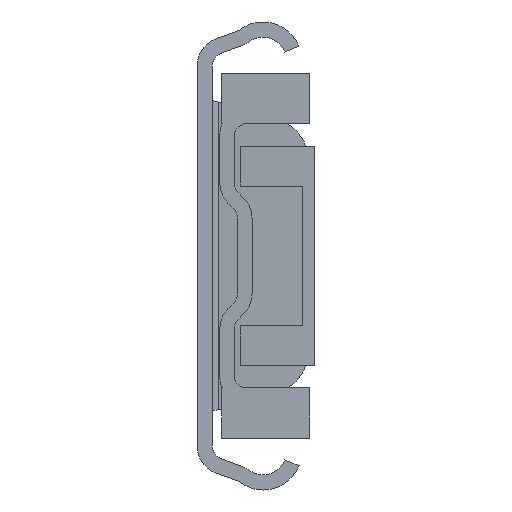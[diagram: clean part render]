
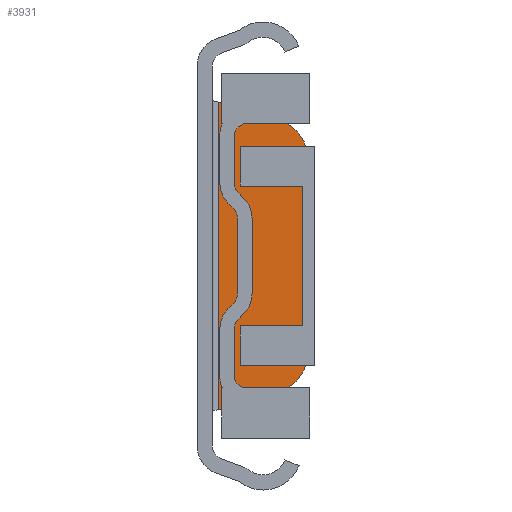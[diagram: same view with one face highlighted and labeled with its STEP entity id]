
A CAD part, front view. The second image highlights one B-rep face of the part: STEP entity #3931.
In plain terms, the highlighted planar face has unit normal (0, -1, 0).
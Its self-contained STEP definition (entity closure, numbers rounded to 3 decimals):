
#337=LINE('',#6757,#720);
#338=LINE('',#6762,#721);
#339=LINE('',#6766,#722);
#340=LINE('',#6768,#723);
#720=VECTOR('',#5596,1000.);
#721=VECTOR('',#5599,1000.);
#722=VECTOR('',#5602,1000.);
#723=VECTOR('',#5603,1000.);
#887=PLANE('',#4656);
#1743=ORIENTED_EDGE('',*,*,#2457,.F.);
#1744=ORIENTED_EDGE('',*,*,#2458,.F.);
#1745=ORIENTED_EDGE('',*,*,#2459,.F.);
#1746=ORIENTED_EDGE('',*,*,#2460,.F.);
#1747=ORIENTED_EDGE('',*,*,#2461,.F.);
#1748=ORIENTED_EDGE('',*,*,#2462,.F.);
#2457=EDGE_CURVE('',#2890,#2891,#337,.T.);
#2458=EDGE_CURVE('',#2892,#2890,#3114,.F.);
#2459=EDGE_CURVE('',#2893,#2892,#338,.T.);
#2460=EDGE_CURVE('',#2894,#2893,#3115,.F.);
#2461=EDGE_CURVE('',#2895,#2894,#339,.T.);
#2462=EDGE_CURVE('',#2891,#2895,#340,.T.);
#2890=VERTEX_POINT('',#6758);
#2891=VERTEX_POINT('',#6759);
#2892=VERTEX_POINT('',#6761);
#2893=VERTEX_POINT('',#6763);
#2894=VERTEX_POINT('',#6765);
#2895=VERTEX_POINT('',#6767);
#3114=CIRCLE('',#4657,8.);
#3115=CIRCLE('',#4658,8.);
#3355=EDGE_LOOP('',(#1743,#1744,#1745,#1746,#1747,#1748));
#3620=FACE_BOUND('',#3355,.T.);
#3931=ADVANCED_FACE('',(#3620),#887,.T.);
#4656=AXIS2_PLACEMENT_3D('',#6756,#5594,#5595);
#4657=AXIS2_PLACEMENT_3D('',#6760,#5597,#5598);
#4658=AXIS2_PLACEMENT_3D('',#6764,#5600,#5601);
#5594=DIRECTION('',(0.,-1.,0.));
#5595=DIRECTION('',(0.,0.,-1.));
#5596=DIRECTION('',(-0.966,0.,-0.259));
#5597=DIRECTION('',(0.,-1.,0.));
#5598=DIRECTION('',(0.,0.,-1.));
#5599=DIRECTION('',(0.,0.,-1.));
#5600=DIRECTION('',(0.,-1.,0.));
#5601=DIRECTION('',(0.,0.,-1.));
#5602=DIRECTION('',(0.966,0.,-0.259));
#5603=DIRECTION('',(0.,0.,1.));
#6756=CARTESIAN_POINT('',(12.9,1115.1,14.965));
#6757=CARTESIAN_POINT('',(22.316,1115.1,-20.174));
#6758=CARTESIAN_POINT('',(12.471,1115.1,-22.812));
#6759=CARTESIAN_POINT('',(3.5,1115.1,-25.216));
#6760=CARTESIAN_POINT('',(10.4,1115.1,-15.085));
#6761=CARTESIAN_POINT('',(18.4,1115.1,-15.085));
#6762=CARTESIAN_POINT('',(18.4,1115.1,14.965));
#6763=CARTESIAN_POINT('',(18.4,1115.1,15.085));
#6764=CARTESIAN_POINT('',(10.4,1115.1,15.085));
#6765=CARTESIAN_POINT('',(12.471,1115.1,22.812));
#6766=CARTESIAN_POINT('',(14.833,1115.1,22.179));
#6767=CARTESIAN_POINT('',(3.5,1115.1,25.216));
#6768=CARTESIAN_POINT('',(3.5,1115.1,-25.766));
